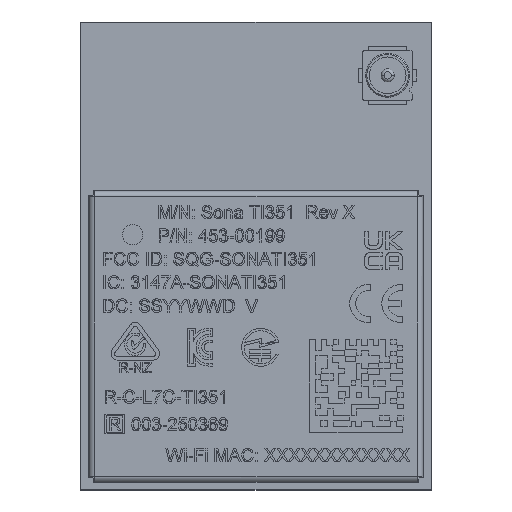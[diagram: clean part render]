
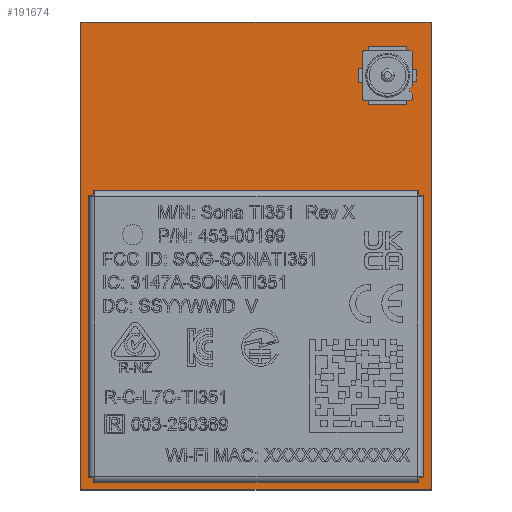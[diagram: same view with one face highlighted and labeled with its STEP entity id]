
A CAD part, top view. The second image highlights one B-rep face of the part: STEP entity #191674.
In plain terms, the highlighted planar face has unit normal (0, 0, 1).
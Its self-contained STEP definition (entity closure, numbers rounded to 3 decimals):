
#6402 = VERTEX_POINT ( 'NONE', #109817 ) ;
#8352 = CARTESIAN_POINT ( 'NONE',  ( 6., 8., 0. ) ) ;
#9542 = VECTOR ( 'NONE', #107358, 1000. ) ;
#12591 = CARTESIAN_POINT ( 'NONE',  ( -6., 8., 0. ) ) ;
#20531 = DIRECTION ( 'NONE',  ( 1., 0., 0. ) ) ;
#48162 = DIRECTION ( 'NONE',  ( -1., 0., 0. ) ) ;
#62699 = DIRECTION ( 'NONE',  ( 1., 0., 0. ) ) ;
#65167 = EDGE_CURVE ( 'NONE', #6402, #197823, #78504, .T. ) ;
#72352 = CARTESIAN_POINT ( 'NONE',  ( 6., -8., 0. ) ) ;
#73331 = CARTESIAN_POINT ( 'NONE',  ( 6., -8., 0. ) ) ;
#78504 = LINE ( 'NONE', #12591, #205571 ) ;
#78670 = DIRECTION ( 'NONE',  ( 0., 0., 1. ) ) ;
#79737 = CARTESIAN_POINT ( 'NONE',  ( 0., 0., 0. ) ) ;
#83279 = CARTESIAN_POINT ( 'NONE',  ( -6., -8., 0. ) ) ;
#86333 = CARTESIAN_POINT ( 'NONE',  ( -6., -8., 0. ) ) ;
#93113 = ORIENTED_EDGE ( 'NONE', *, *, #65167, .T. ) ;
#96200 = VECTOR ( 'NONE', #20531, 1000. ) ;
#107358 = DIRECTION ( 'NONE',  ( 0., 1., 0. ) ) ;
#108596 = VERTEX_POINT ( 'NONE', #72352 ) ;
#109817 = CARTESIAN_POINT ( 'NONE',  ( -6., 8., 0. ) ) ;
#110912 = CARTESIAN_POINT ( 'NONE',  ( 6., 8., 0. ) ) ;
#111934 = LINE ( 'NONE', #110912, #175291 ) ;
#115440 = ORIENTED_EDGE ( 'NONE', *, *, #133220, .T. ) ;
#133220 = EDGE_CURVE ( 'NONE', #197823, #108596, #148086, .T. ) ;
#139119 = LINE ( 'NONE', #73331, #9542 ) ;
#143565 = EDGE_LOOP ( 'NONE', ( #115440, #207545, #206369, #93113 ) ) ;
#148086 = LINE ( 'NONE', #83279, #96200 ) ;
#152935 = EDGE_CURVE ( 'NONE', #108596, #197252, #139119, .T. ) ;
#158411 = EDGE_CURVE ( 'NONE', #197252, #6402, #111934, .T. ) ;
#159427 = FACE_OUTER_BOUND ( 'NONE', #143565, .T. ) ;
#175291 = VECTOR ( 'NONE', #48162, 1000. ) ;
#191674 = ADVANCED_FACE ( 'NONE', ( #159427 ), #208177, .T. ) ;
#197252 = VERTEX_POINT ( 'NONE', #8352 ) ;
#197823 = VERTEX_POINT ( 'NONE', #86333 ) ;
#203439 = AXIS2_PLACEMENT_3D ( 'NONE', #79737, #78670, #62699 ) ;
#205571 = VECTOR ( 'NONE', #208000, 1000. ) ;
#206369 = ORIENTED_EDGE ( 'NONE', *, *, #158411, .T. ) ;
#207545 = ORIENTED_EDGE ( 'NONE', *, *, #152935, .T. ) ;
#208000 = DIRECTION ( 'NONE',  ( 0., -1., 0. ) ) ;
#208177 = PLANE ( 'NONE',  #203439 ) ;
